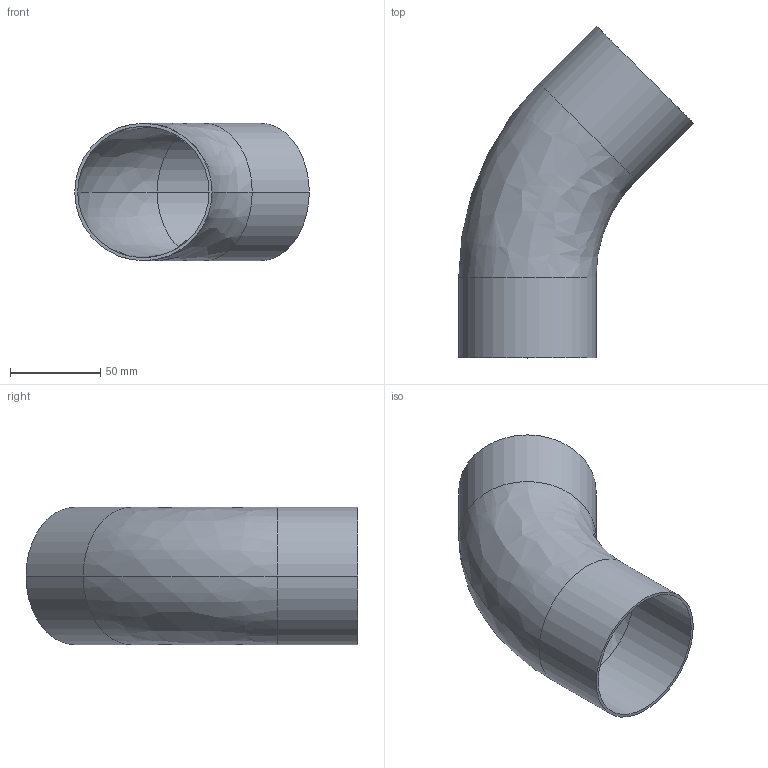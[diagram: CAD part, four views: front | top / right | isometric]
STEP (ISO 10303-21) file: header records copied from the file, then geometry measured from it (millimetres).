
FILE_DESCRIPTION (( 'STEP AP214' ), '1' );
FILE_NAME ('TE2KS6L3.0-...STEP', '2016-05-22T06:53:54', ( 'eran' ), ( '' ), 'SwSTEP 2.0', 'SolidWorks 2016', '' );
FILE_SCHEMA (( 'AUTOMOTIVE_DESIGN' ));
Length unit declared in the file: millimetre
Products named in the file (1): TE2KS6L3.0-..
Bounding box: 130.17 x 184.17 x 76.2 mm (x, y, z)
Volume: 69281.6 mm3; surface area: 84750.5 mm2
Topology: 1 solids, 1 shells, 14 faces, 28 edges, 16 vertices
Faces by surface type: cylinder 8, bspline 4, plane 2
Entity records: 450 total; most frequent: CARTESIAN_POINT 119, DIRECTION 70, ORIENTED_EDGE 56, AXIS2_PLACEMENT_3D 31, EDGE_CURVE 28, CIRCLE 20, EDGE_LOOP 16, VERTEX_POINT 16
